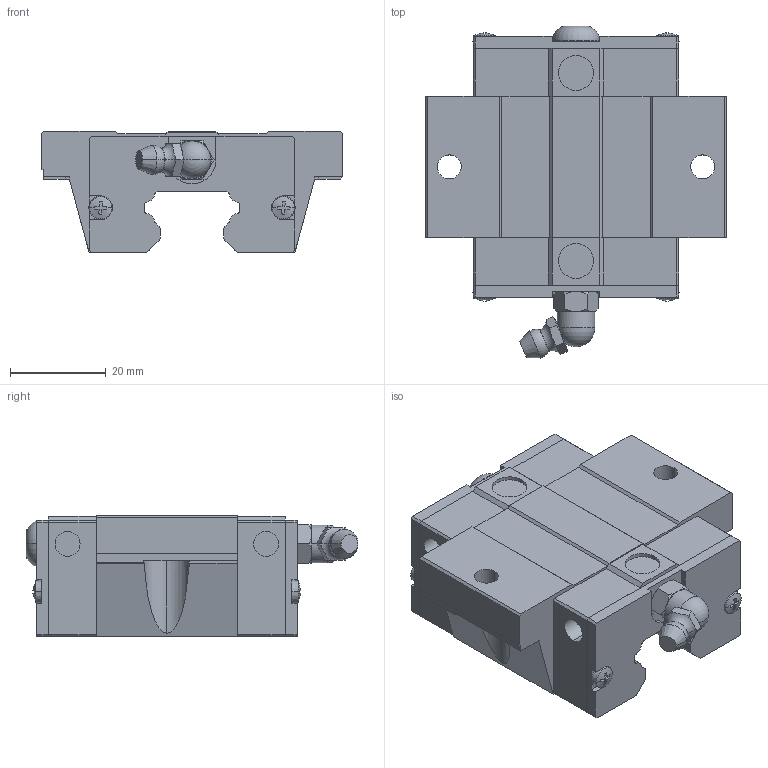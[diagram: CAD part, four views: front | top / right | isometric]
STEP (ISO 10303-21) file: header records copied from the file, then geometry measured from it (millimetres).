
FILE_DESCRIPTION(('no description'),'unknown implementation level');
FILE_NAME('HGW20SC_Z0_H_SS_3.stp',' ',('HIWIN GmbH'),('CADClick - KiM GmbH - www.kimweb.de'),'unknown preprocess','ACIS','unknown authorization');
FILE_SCHEMA(('automotive_design'));
Length unit declared in the file: millimetre
Products named in the file (1): 1
Bounding box: 63 x 69.41 x 25.4 mm (x, y, z)
Volume: 53560.8 mm3; surface area: 14013.2 mm2
Topology: 1 solids, 5 shells, 454 faces, 1260 edges, 824 vertices
Faces by surface type: plane 320, cylinder 76, cone 38, torus 18, sphere 2
Entity records: 28524 total; most frequent: CARTESIAN_POINT 3241, STYLED_ITEM 2537, PRESENTATION_STYLE_ASSIGNMENT 2537, COLOUR_RGB 2537, ORIENTED_EDGE 2516, DIRECTION 2180, EDGE_CURVE 1258, CURVE_STYLE 1258
